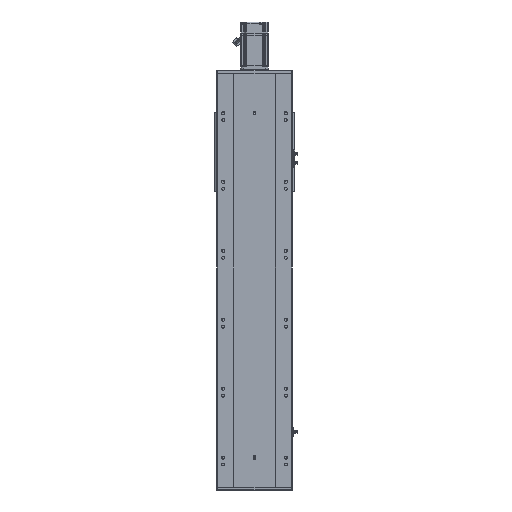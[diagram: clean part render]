
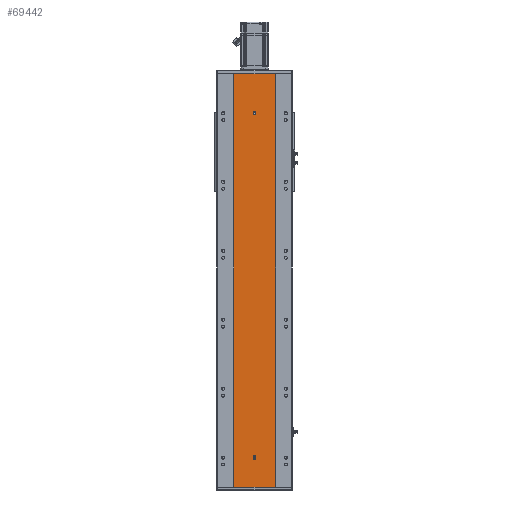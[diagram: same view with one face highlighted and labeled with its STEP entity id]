
A CAD part, front view. The second image highlights one B-rep face of the part: STEP entity #69442.
In plain terms, the highlighted planar face has unit normal (0, -1, 0).
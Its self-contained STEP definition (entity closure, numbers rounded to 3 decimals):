
#1 = AXIS2_PLACEMENT_3D ( 'NONE', #48199, #25770, #32069 ) ;
#1861 = CARTESIAN_POINT ( 'NONE',  ( -4., 0., 87.5 ) ) ;
#3267 = VERTEX_POINT ( 'NONE', #31536 ) ;
#4002 = ORIENTED_EDGE ( 'NONE', *, *, #69342, .F. ) ;
#4513 = EDGE_LOOP ( 'NONE', ( #69557, #13857 ) ) ;
#4846 = VERTEX_POINT ( 'NONE', #43479 ) ;
#4969 = DIRECTION ( 'NONE',  ( 0., 0., -1. ) ) ;
#5208 = CIRCLE ( 'NONE', #59603, 4. ) ;
#5879 = VERTEX_POINT ( 'NONE', #59244 ) ;
#6984 = LINE ( 'NONE', #26887, #19925 ) ;
#8272 = EDGE_LOOP ( 'NONE', ( #9804, #46462, #27782, #38616 ) ) ;
#8497 = AXIS2_PLACEMENT_3D ( 'NONE', #35074, #52383, #23933 ) ;
#8903 = LINE ( 'NONE', #26024, #14117 ) ;
#9541 = AXIS2_PLACEMENT_3D ( 'NONE', #25163, #30748, #29788 ) ;
#9804 = ORIENTED_EDGE ( 'NONE', *, *, #24891, .T. ) ;
#11146 = FACE_OUTER_BOUND ( 'NONE', #8272, .T. ) ;
#11981 = CARTESIAN_POINT ( 'NONE',  ( -60., 0., 1200. ) ) ;
#13857 = ORIENTED_EDGE ( 'NONE', *, *, #42211, .F. ) ;
#14117 = VECTOR ( 'NONE', #43789, 1000. ) ;
#14786 = CIRCLE ( 'NONE', #8497, 4. ) ;
#15061 = ORIENTED_EDGE ( 'NONE', *, *, #20222, .F. ) ;
#15820 = EDGE_CURVE ( 'NONE', #21172, #4846, #27863, .T. ) ;
#16474 = CARTESIAN_POINT ( 'NONE',  ( 0., 0., 80.5 ) ) ;
#18387 = DIRECTION ( 'NONE',  ( 0., 1., 0. ) ) ;
#19925 = VECTOR ( 'NONE', #21093, 1000. ) ;
#20222 = EDGE_CURVE ( 'NONE', #3267, #44779, #8903, .T. ) ;
#21093 = DIRECTION ( 'NONE',  ( 0., 0., -1. ) ) ;
#21172 = VERTEX_POINT ( 'NONE', #11981 ) ;
#21431 = LINE ( 'NONE', #24523, #39606 ) ;
#23214 = EDGE_CURVE ( 'NONE', #4846, #24215, #21431, .T. ) ;
#23933 = DIRECTION ( 'NONE',  ( 0., 0., -1. ) ) ;
#24215 = VERTEX_POINT ( 'NONE', #40807 ) ;
#24405 = DIRECTION ( 'NONE',  ( 0., 0., -1. ) ) ;
#24523 = CARTESIAN_POINT ( 'NONE',  ( 60., 0., 1200. ) ) ;
#24764 = DIRECTION ( 'NONE',  ( 0., 0., -1. ) ) ;
#24891 = EDGE_CURVE ( 'NONE', #5879, #24215, #33235, .T. ) ;
#25163 = CARTESIAN_POINT ( 'NONE',  ( 0., 0., 1086. ) ) ;
#25770 = DIRECTION ( 'NONE',  ( 0., -1., 0. ) ) ;
#26024 = CARTESIAN_POINT ( 'NONE',  ( 4., 0., 84.5 ) ) ;
#26887 = CARTESIAN_POINT ( 'NONE',  ( -60., 0., 1200. ) ) ;
#27524 = CARTESIAN_POINT ( 'NONE',  ( 4., 0., 87.5 ) ) ;
#27782 = ORIENTED_EDGE ( 'NONE', *, *, #15820, .F. ) ;
#27863 = LINE ( 'NONE', #49987, #39105 ) ;
#29395 = ORIENTED_EDGE ( 'NONE', *, *, #69368, .F. ) ;
#29788 = DIRECTION ( 'NONE',  ( 0., 0., -1. ) ) ;
#30748 = DIRECTION ( 'NONE',  ( 0., -1., 0. ) ) ;
#31536 = CARTESIAN_POINT ( 'NONE',  ( 4., 0., 84.5 ) ) ;
#32069 = DIRECTION ( 'NONE',  ( 0., 0., -1. ) ) ;
#32720 = FACE_BOUND ( 'NONE', #4513, .T. ) ;
#32977 = ORIENTED_EDGE ( 'NONE', *, *, #56180, .F. ) ;
#33235 = LINE ( 'NONE', #70677, #67722 ) ;
#34800 = CIRCLE ( 'NONE', #1, 4. ) ;
#35074 = CARTESIAN_POINT ( 'NONE',  ( 0., 0., 84.5 ) ) ;
#35570 = CARTESIAN_POINT ( 'NONE',  ( 0., 0., 1082. ) ) ;
#36865 = CIRCLE ( 'NONE', #9541, 4. ) ;
#37173 = AXIS2_PLACEMENT_3D ( 'NONE', #41308, #63230, #24405 ) ;
#38616 = ORIENTED_EDGE ( 'NONE', *, *, #58631, .T. ) ;
#39105 = VECTOR ( 'NONE', #39119, 1000. ) ;
#39119 = DIRECTION ( 'NONE',  ( 1., 0., 0. ) ) ;
#39143 = CIRCLE ( 'NONE', #37173, 4. ) ;
#39249 = EDGE_LOOP ( 'NONE', ( #15061, #32977, #29395, #71149, #4002 ) ) ;
#39480 = AXIS2_PLACEMENT_3D ( 'NONE', #40368, #18387, #40609 ) ;
#39606 = VECTOR ( 'NONE', #24764, 1000. ) ;
#40368 = CARTESIAN_POINT ( 'NONE',  ( -60., 0., 1200. ) ) ;
#40609 = DIRECTION ( 'NONE',  ( 0., 0., 1. ) ) ;
#40807 = CARTESIAN_POINT ( 'NONE',  ( 60., 0., 0. ) ) ;
#41308 = CARTESIAN_POINT ( 'NONE',  ( 0., 0., 87.5 ) ) ;
#42211 = EDGE_CURVE ( 'NONE', #47063, #57009, #5208, .T. ) ;
#43479 = CARTESIAN_POINT ( 'NONE',  ( 60., 0., 1200. ) ) ;
#43789 = DIRECTION ( 'NONE',  ( 0., 0., 1. ) ) ;
#44609 = DIRECTION ( 'NONE',  ( 0., -1., 0. ) ) ;
#44779 = VERTEX_POINT ( 'NONE', #27524 ) ;
#45300 = DIRECTION ( 'NONE',  ( 0., 0., -1. ) ) ;
#45982 = CARTESIAN_POINT ( 'NONE',  ( 0., 0., 1090. ) ) ;
#46462 = ORIENTED_EDGE ( 'NONE', *, *, #23214, .F. ) ;
#47063 = VERTEX_POINT ( 'NONE', #45982 ) ;
#48199 = CARTESIAN_POINT ( 'NONE',  ( 0., 0., 84.5 ) ) ;
#49987 = CARTESIAN_POINT ( 'NONE',  ( -60., 0., 1200. ) ) ;
#52383 = DIRECTION ( 'NONE',  ( 0., -1., 0. ) ) ;
#54469 = CARTESIAN_POINT ( 'NONE',  ( -4., 0., 84.5 ) ) ;
#55942 = VECTOR ( 'NONE', #4969, 1000. ) ;
#56180 = EDGE_CURVE ( 'NONE', #56802, #3267, #34800, .T. ) ;
#56802 = VERTEX_POINT ( 'NONE', #16474 ) ;
#57009 = VERTEX_POINT ( 'NONE', #35570 ) ;
#57691 = LINE ( 'NONE', #70804, #55942 ) ;
#58248 = VERTEX_POINT ( 'NONE', #54469 ) ;
#58631 = EDGE_CURVE ( 'NONE', #21172, #5879, #6984, .T. ) ;
#59244 = CARTESIAN_POINT ( 'NONE',  ( -60., 0., 0. ) ) ;
#59603 = AXIS2_PLACEMENT_3D ( 'NONE', #61457, #44609, #45300 ) ;
#61457 = CARTESIAN_POINT ( 'NONE',  ( 0., 0., 1086. ) ) ;
#61756 = EDGE_CURVE ( 'NONE', #57009, #47063, #36865, .T. ) ;
#62702 = VERTEX_POINT ( 'NONE', #1861 ) ;
#63230 = DIRECTION ( 'NONE',  ( 0., -1., 0. ) ) ;
#64706 = DIRECTION ( 'NONE',  ( 1., 0., 0. ) ) ;
#66013 = EDGE_CURVE ( 'NONE', #62702, #58248, #57691, .T. ) ;
#67722 = VECTOR ( 'NONE', #64706, 1000. ) ;
#67835 = PLANE ( 'NONE',  #39480 ) ;
#69342 = EDGE_CURVE ( 'NONE', #44779, #62702, #39143, .T. ) ;
#69368 = EDGE_CURVE ( 'NONE', #58248, #56802, #14786, .T. ) ;
#69442 = ADVANCED_FACE ( 'NONE', ( #32720, #71531, #11146 ), #67835, .F. ) ;
#69557 = ORIENTED_EDGE ( 'NONE', *, *, #61756, .F. ) ;
#70677 = CARTESIAN_POINT ( 'NONE',  ( -60., 0., 0. ) ) ;
#70804 = CARTESIAN_POINT ( 'NONE',  ( -4., 0., 84.5 ) ) ;
#71149 = ORIENTED_EDGE ( 'NONE', *, *, #66013, .F. ) ;
#71531 = FACE_BOUND ( 'NONE', #39249, .T. ) ;
